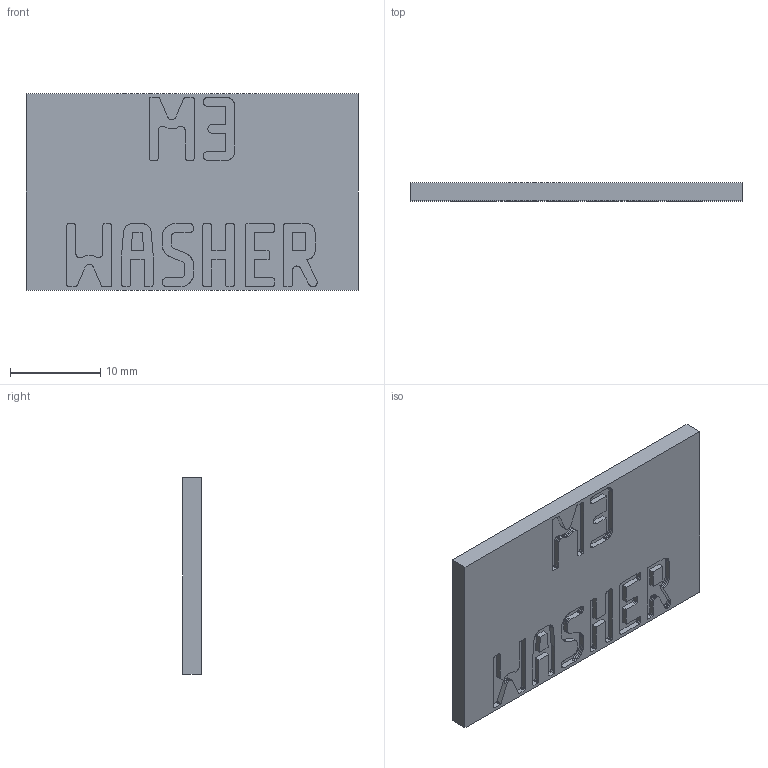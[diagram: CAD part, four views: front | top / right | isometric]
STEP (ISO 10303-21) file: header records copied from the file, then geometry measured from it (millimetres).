
FILE_DESCRIPTION(('Open CASCADE Model'),'2;1');
FILE_NAME('Open CASCADE Shape Model','2026-11-03T17:10:36',('Author'),( 'Open CASCADE'),'Open CASCADE STEP processor 8.0','build123d', 'Unknown');
FILE_SCHEMA(('AUTOMOTIVE_DESIGN { 1 0 10303 214 1 1 1 1 }'));
Length unit declared in the file: millimetre
Products named in the file (2): =>[0:1:1:2]; COMPOUND
Assembly tree (1 placements, depth 2):
  =>[0:1:1:2]
    COMPOUND
Bounding box: 36.8 x 2 x 21.8 mm (x, y, z)
Volume: 1528.4 mm3; surface area: 1985.6 mm2
Topology: 1 solids, 1 shells, 860 faces, 2544 edges, 1696 vertices
Faces by surface type: plane 860
Entity records: 61208 total; most frequent: CARTESIAN_POINT 10190, DIRECTION 9356, LINE 7632, VECTOR 7632, ORIENTED_EDGE 5088, PCURVE 5088, DEFINITIONAL_REPRESENTATION 5088, EDGE_CURVE 2544
